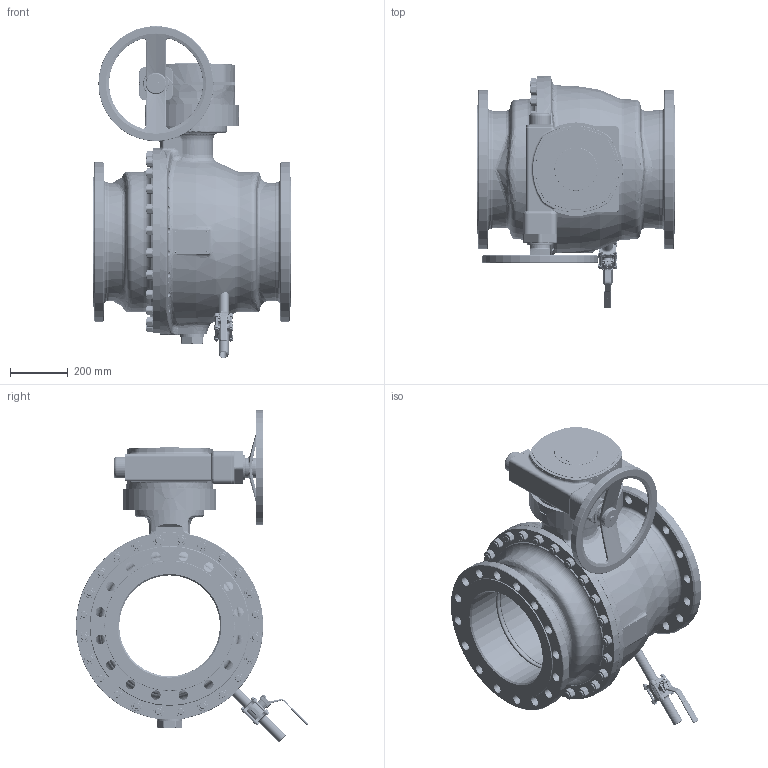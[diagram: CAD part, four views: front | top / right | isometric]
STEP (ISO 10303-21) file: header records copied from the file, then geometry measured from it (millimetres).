
FILE_DESCRIPTION((''),'2;1');
FILE_NAME('KHIFL350VFL350P025MKK_SW0001','2014-09-03T',('schwaba'),('RAND'),'PRO/ENGINEER BY PARAMETRIC TECHNOLOGY CORPORATION, 2013410','PRO/ENGINEER BY PARAMETRIC TECHNOLOGY CORPORATION, 2013410','');
FILE_SCHEMA(('CONFIG_CONTROL_DESIGN'));
Products named in the file (1): KHIFL350VFL350P025MKK_SW0001
Bounding box: 686 x 805.68 x 1152.21 mm (x, y, z)
Volume: 79951786.2 mm3; surface area: 6555090.7 mm2
Topology: 2 solids, 17 shells, 5029 faces, 12288 edges, 7493 vertices
Faces by surface type: plane 1903, cylinder 1170, cone 729, bspline 622, torus 538, sphere 67
Entity records: 287883 total; most frequent: CARTESIAN_POINT 173427, ORIENTED_EDGE 24440, DIRECTION 23247, EDGE_CURVE 12220, AXIS2_PLACEMENT_3D 8897, VERTEX_POINT 7493, VECTOR 5453, LINE 5453
